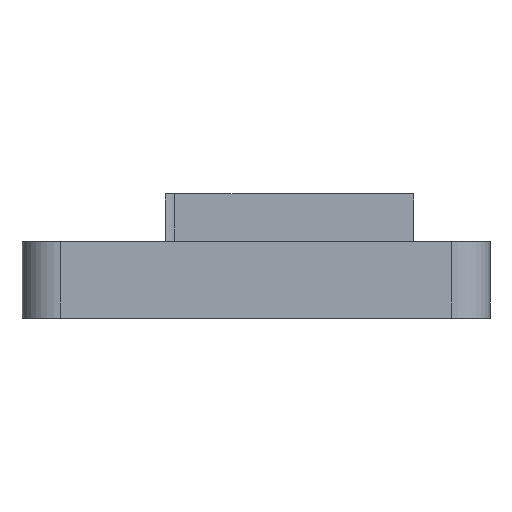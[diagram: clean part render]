
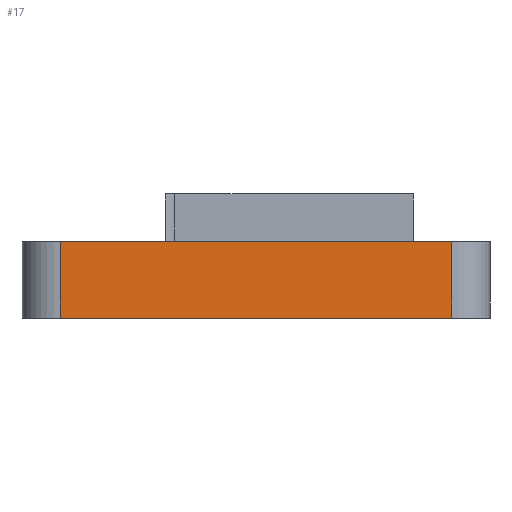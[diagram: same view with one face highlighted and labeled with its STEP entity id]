
A CAD part, left-side view. The second image highlights one B-rep face of the part: STEP entity #17.
In plain terms, the highlighted planar face has unit normal (-1, 0, 0).
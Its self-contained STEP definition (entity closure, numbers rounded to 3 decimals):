
#17 = ADVANCED_FACE('',(#18),#52,.F.);
#18 = FACE_BOUND('',#19,.F.);
#19 = EDGE_LOOP('',(#20,#30,#38,#46));
#20 = ORIENTED_EDGE('',*,*,#21,.T.);
#21 = EDGE_CURVE('',#22,#24,#26,.T.);
#22 = VERTEX_POINT('',#23);
#23 = CARTESIAN_POINT('',(58.5,148.5,0.));
#24 = VERTEX_POINT('',#25);
#25 = CARTESIAN_POINT('',(58.5,148.5,8.));
#26 = LINE('',#27,#28);
#27 = CARTESIAN_POINT('',(58.5,148.5,0.));
#28 = VECTOR('',#29,1.);
#29 = DIRECTION('',(0.,0.,1.));
#30 = ORIENTED_EDGE('',*,*,#31,.T.);
#31 = EDGE_CURVE('',#24,#32,#34,.T.);
#32 = VERTEX_POINT('',#33);
#33 = CARTESIAN_POINT('',(58.5,107.5,8.));
#34 = LINE('',#35,#36);
#35 = CARTESIAN_POINT('',(58.5,148.5,8.));
#36 = VECTOR('',#37,1.);
#37 = DIRECTION('',(0.,-1.,0.));
#38 = ORIENTED_EDGE('',*,*,#39,.F.);
#39 = EDGE_CURVE('',#40,#32,#42,.T.);
#40 = VERTEX_POINT('',#41);
#41 = CARTESIAN_POINT('',(58.5,107.5,0.));
#42 = LINE('',#43,#44);
#43 = CARTESIAN_POINT('',(58.5,107.5,0.));
#44 = VECTOR('',#45,1.);
#45 = DIRECTION('',(0.,0.,1.));
#46 = ORIENTED_EDGE('',*,*,#47,.F.);
#47 = EDGE_CURVE('',#22,#40,#48,.T.);
#48 = LINE('',#49,#50);
#49 = CARTESIAN_POINT('',(58.5,148.5,0.));
#50 = VECTOR('',#51,1.);
#51 = DIRECTION('',(0.,-1.,0.));
#52 = PLANE('',#53);
#53 = AXIS2_PLACEMENT_3D('',#54,#55,#56);
#54 = CARTESIAN_POINT('',(58.5,148.5,0.));
#55 = DIRECTION('',(1.,0.,0.));
#56 = DIRECTION('',(0.,-1.,0.));
